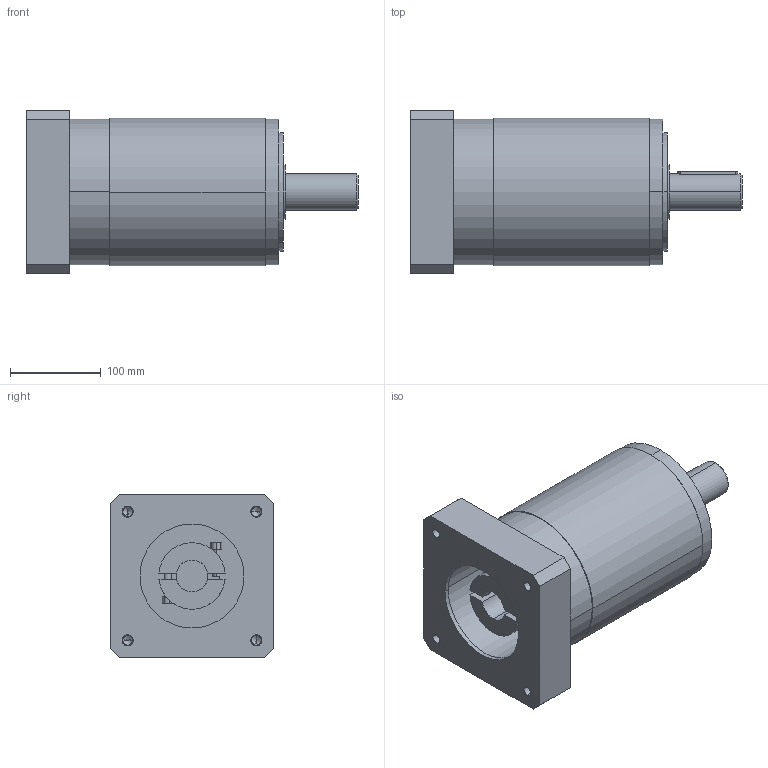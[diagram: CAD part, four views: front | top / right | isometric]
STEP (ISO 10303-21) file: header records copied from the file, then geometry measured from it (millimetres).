
FILE_DESCRIPTION((''),'2;1');
FILE_NAME('PL160L3_ASM','2015-10-31T',('Administrator'),(''),'PRO/ENGINEER BY PARAMETRIC TECHNOLOGY CORPORATION, 2010280','PRO/ENGINEER BY PARAMETRIC TECHNOLOGY CORPORATION, 2010280','');
FILE_SCHEMA(('CONFIG_CONTROL_DESIGN'));
Length unit declared in the file: millimetre
Products named in the file (6): PL160ZHU; XIANGTIL3; LIANZHUQI; LUOXI; PRT0002; PL160L3_ASM
Assembly tree (6 placements, depth 2):
  PL160L3_ASM
    PL160ZHU
    XIANGTIL3
    LIANZHUQI
    LUOXI  x2
    PRT0002
Bounding box: 365 x 180 x 180 mm (x, y, z)
Volume: 5557258.3 mm3; surface area: 372822.8 mm2
Topology: 6 solids, 19 shells, 163 faces, 402 edges, 265 vertices
Faces by surface type: cylinder 84, plane 67, cone 12
Entity records: 4824 total; most frequent: CARTESIAN_POINT 975, DIRECTION 864, ORIENTED_EDGE 668, EDGE_CURVE 362, AXIS2_PLACEMENT_3D 349, VERTEX_POINT 245, EDGE_LOOP 187, CIRCLE 182
